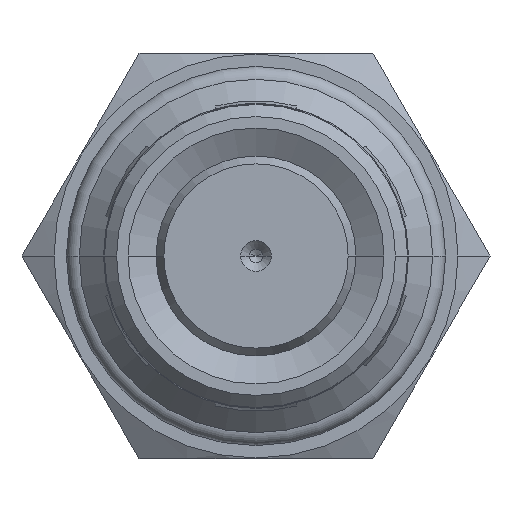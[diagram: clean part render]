
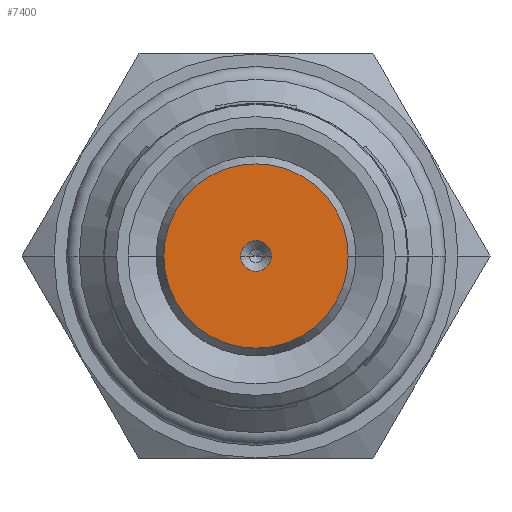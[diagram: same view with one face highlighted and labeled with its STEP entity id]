
A CAD part, front view. The second image highlights one B-rep face of the part: STEP entity #7400.
In plain terms, the highlighted planar face has unit normal (0, -1, 0).
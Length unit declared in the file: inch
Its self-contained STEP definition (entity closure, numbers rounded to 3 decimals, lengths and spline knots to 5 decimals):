
#4692=CARTESIAN_POINT('',(0.,-1.91429,0.));
#4693=DIRECTION('',(0.,1.,0.));
#4694=DIRECTION('',(-1.,0.,0.));
#4695=AXIS2_PLACEMENT_3D('',#4692,#4693,#4694);
#4700=CARTESIAN_POINT('',(0.,-1.91429,0.));
#4701=DIRECTION('',(0.,1.,0.));
#4702=DIRECTION('',(1.,0.,0.));
#4703=AXIS2_PLACEMENT_3D('',#4700,#4701,#4702);
#4708=CARTESIAN_POINT('',(0.,-1.91429,0.));
#4709=DIRECTION('',(0.,1.,0.));
#4710=DIRECTION('',(-1.,0.,0.));
#4711=AXIS2_PLACEMENT_3D('',#4708,#4709,#4710);
#4716=CARTESIAN_POINT('',(0.,-1.91429,0.));
#4717=DIRECTION('',(0.,1.,0.));
#4718=DIRECTION('',(1.,0.,0.));
#4719=AXIS2_PLACEMENT_3D('',#4716,#4717,#4718);
#4966=CARTESIAN_POINT('',(-0.34113,-1.91429,0.));
#4967=CARTESIAN_POINT('',(0.34113,-1.91429,0.));
#4968=VERTEX_POINT('',#4966);
#4969=VERTEX_POINT('',#4967);
#4980=CARTESIAN_POINT('',(-0.057,-1.91429,0.));
#4981=CARTESIAN_POINT('',(0.057,-1.91429,0.));
#4982=VERTEX_POINT('',#4980);
#4983=VERTEX_POINT('',#4981);
#7384=CARTESIAN_POINT('',(0.,-1.91429,0.));
#7385=DIRECTION('',(0.,1.,0.));
#7386=DIRECTION('',(1.,0.,0.));
#7387=AXIS2_PLACEMENT_3D('',#7384,#7385,#7386);
#7388=PLANE('',#7387);
#7390=ORIENTED_EDGE('',*,*,#7389,.T.);
#7391=ORIENTED_EDGE('',*,*,#7374,.T.);
#7392=EDGE_LOOP('',(#7390,#7391));
#7393=FACE_OUTER_BOUND('',#7392,.F.);
#7395=ORIENTED_EDGE('',*,*,#7394,.F.);
#7397=ORIENTED_EDGE('',*,*,#7396,.F.);
#7398=EDGE_LOOP('',(#7395,#7397));
#7399=FACE_BOUND('',#7398,.F.);
#4696=CIRCLE('',#4695,0.34113);
#4704=CIRCLE('',#4703,0.34113);
#4712=CIRCLE('',#4711,0.057);
#4720=CIRCLE('',#4719,0.057);
#7374=EDGE_CURVE('',#4969,#4968,#4704,.T.);
#7389=EDGE_CURVE('',#4968,#4969,#4696,.T.);
#7394=EDGE_CURVE('',#4982,#4983,#4712,.T.);
#7396=EDGE_CURVE('',#4983,#4982,#4720,.T.);
#7400=ADVANCED_FACE('',(#7393,#7399),#7388,.F.);
